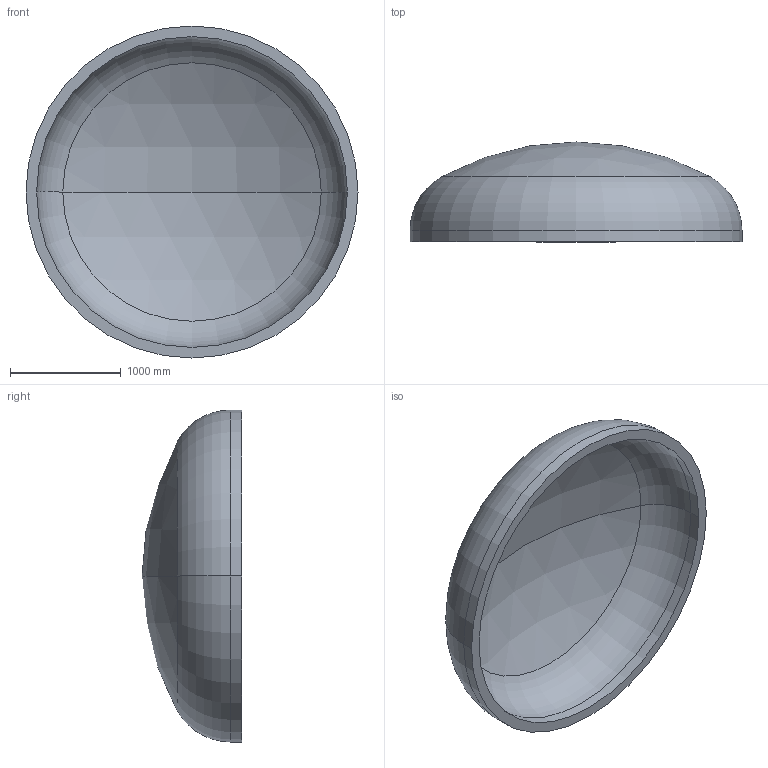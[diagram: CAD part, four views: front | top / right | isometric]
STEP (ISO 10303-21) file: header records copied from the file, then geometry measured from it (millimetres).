
FILE_DESCRIPTION (( 'STEP AP203' ), '1' );
FILE_NAME ('DIN 28013 Korbbogenform_-_Boden DIN 28013 - 3000 x 100 - I - s=96.step', '2016-07-01T18:05:44', ( '' ), ( '' ), 'SwSTEP 2.0', 'SolidWorks 2013', '' );
FILE_SCHEMA (( 'CONFIG_CONTROL_DESIGN' ));
Length unit declared in the file: millimetre
Products named in the file (1): DIN 28013 Korbbogenform_-_Boden DIN 28013 - 3000 x 100 - I - s=96
Bounding box: 3000 x 901.17 x 3000 mm (x, y, z)
Volume: 988208270.9 mm3; surface area: 21482793.4 mm2
Topology: 1 solids, 1 shells, 13 faces, 24 edges, 14 vertices
Faces by surface type: torus 4, cylinder 4, sphere 4, plane 1
Entity records: 407 total; most frequent: DIRECTION 72, CARTESIAN_POINT 52, ORIENTED_EDGE 48, AXIS2_PLACEMENT_3D 34, EDGE_CURVE 24, CIRCLE 20, VERTEX_POINT 14, EDGE_LOOP 14
